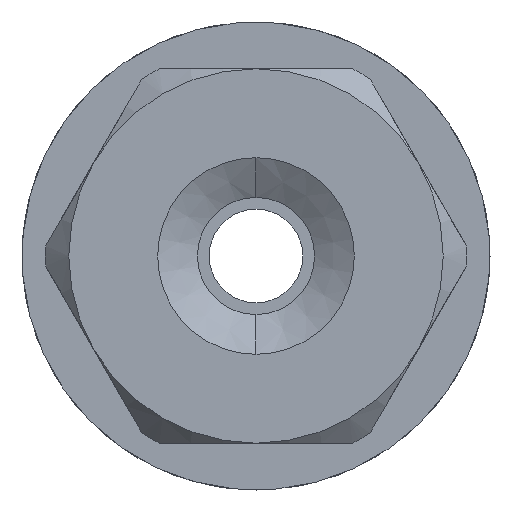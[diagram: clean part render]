
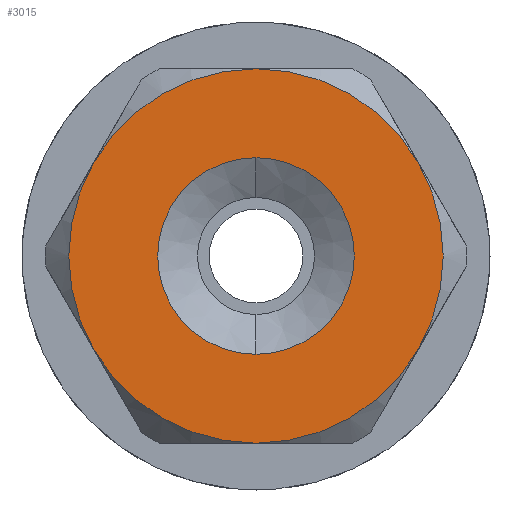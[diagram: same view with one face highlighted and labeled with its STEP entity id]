
A CAD part, front view. The second image highlights one B-rep face of the part: STEP entity #3015.
In plain terms, the highlighted planar face has unit normal (0, -1, 0).
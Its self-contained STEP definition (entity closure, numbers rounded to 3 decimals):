
#374 = AXIS2_PLACEMENT_3D ( 'NONE', #6774, #2064, #7576 ) ;
#587 = DIRECTION ( 'NONE',  ( 0., 0., -1. ) ) ;
#651 = EDGE_CURVE ( 'NONE', #9242, #3650, #4282, .T. ) ;
#748 = CIRCLE ( 'NONE', #4535, 4. ) ;
#839 = ORIENTED_EDGE ( 'NONE', *, *, #4997, .T. ) ;
#923 = CARTESIAN_POINT ( 'NONE',  ( 0.265, -12.63, 17. ) ) ;
#1161 = CARTESIAN_POINT ( 'NONE',  ( 0.265, -12.63, 17. ) ) ;
#1310 = AXIS2_PLACEMENT_3D ( 'NONE', #923, #6453, #1730 ) ;
#1554 = CARTESIAN_POINT ( 'NONE',  ( 0.265, -12.63, 17. ) ) ;
#1672 = FACE_OUTER_BOUND ( 'NONE', #5254, .T. ) ;
#1730 = DIRECTION ( 'NONE',  ( 0., 0., 1. ) ) ;
#1992 = DIRECTION ( 'NONE',  ( 0., 0., -1. ) ) ;
#2039 = AXIS2_PLACEMENT_3D ( 'NONE', #8215, #3457, #8990 ) ;
#2051 = CIRCLE ( 'NONE', #2039, 4. ) ;
#2064 = DIRECTION ( 'NONE',  ( 0., -1., 0. ) ) ;
#2164 = CARTESIAN_POINT ( 'NONE',  ( 0.265, -12.63, 19.1 ) ) ;
#2276 = ORIENTED_EDGE ( 'NONE', *, *, #6071, .T. ) ;
#2353 = DIRECTION ( 'NONE',  ( 0., 0., 1. ) ) ;
#2374 = EDGE_LOOP ( 'NONE', ( #3936, #8543 ) ) ;
#2707 = VERTEX_POINT ( 'NONE', #2164 ) ;
#2821 = CARTESIAN_POINT ( 'NONE',  ( 0.265, -12.63, 13. ) ) ;
#3015 = ADVANCED_FACE ( 'NONE', ( #9783, #1672 ), #9471, .F. ) ;
#3091 = AXIS2_PLACEMENT_3D ( 'NONE', #1161, #6694, #1992 ) ;
#3105 = VERTEX_POINT ( 'NONE', #5709 ) ;
#3221 = DIRECTION ( 'NONE',  ( 0., 1., 0. ) ) ;
#3339 = DIRECTION ( 'NONE',  ( 0., -1., 0. ) ) ;
#3457 = DIRECTION ( 'NONE',  ( 0., -1., 0. ) ) ;
#3479 = EDGE_CURVE ( 'NONE', #3944, #9534, #6997, .T. ) ;
#3640 = EDGE_CURVE ( 'NONE', #3650, #3105, #7876, .T. ) ;
#3650 = VERTEX_POINT ( 'NONE', #6312 ) ;
#3936 = ORIENTED_EDGE ( 'NONE', *, *, #10144, .F. ) ;
#3944 = VERTEX_POINT ( 'NONE', #2821 ) ;
#3949 = CARTESIAN_POINT ( 'NONE',  ( 3.729, -12.63, 15. ) ) ;
#4282 = CIRCLE ( 'NONE', #5982, 4. ) ;
#4535 = AXIS2_PLACEMENT_3D ( 'NONE', #8084, #3339, #8865 ) ;
#4607 = CARTESIAN_POINT ( 'NONE',  ( -3.199, -12.63, 15. ) ) ;
#4933 = CARTESIAN_POINT ( 'NONE',  ( 3.729, -12.63, 19. ) ) ;
#4997 = EDGE_CURVE ( 'NONE', #6666, #3944, #748, .T. ) ;
#5117 = AXIS2_PLACEMENT_3D ( 'NONE', #1554, #7072, #2353 ) ;
#5136 = DIRECTION ( 'NONE',  ( 0., 0., 1. ) ) ;
#5231 = ORIENTED_EDGE ( 'NONE', *, *, #651, .T. ) ;
#5254 = EDGE_LOOP ( 'NONE', ( #839, #6606, #9383, #5231, #9382, #2276 ) ) ;
#5291 = DIRECTION ( 'NONE',  ( 0., -1., 0. ) ) ;
#5709 = CARTESIAN_POINT ( 'NONE',  ( -3.199, -12.63, 19. ) ) ;
#5721 = CIRCLE ( 'NONE', #3091, 2.1 ) ;
#5976 = AXIS2_PLACEMENT_3D ( 'NONE', #10024, #5291, #587 ) ;
#5982 = AXIS2_PLACEMENT_3D ( 'NONE', #8449, #9846, #5136 ) ;
#6071 = EDGE_CURVE ( 'NONE', #3105, #6666, #8236, .T. ) ;
#6312 = CARTESIAN_POINT ( 'NONE',  ( 0.265, -12.63, 21. ) ) ;
#6453 = DIRECTION ( 'NONE',  ( 0., -1., 0. ) ) ;
#6606 = ORIENTED_EDGE ( 'NONE', *, *, #3479, .T. ) ;
#6666 = VERTEX_POINT ( 'NONE', #4607 ) ;
#6694 = DIRECTION ( 'NONE',  ( 0., -1., 0. ) ) ;
#6743 = CIRCLE ( 'NONE', #5976, 2.1 ) ;
#6774 = CARTESIAN_POINT ( 'NONE',  ( 0.265, -12.63, 17. ) ) ;
#6997 = CIRCLE ( 'NONE', #374, 4. ) ;
#7072 = DIRECTION ( 'NONE',  ( 0., -1., 0. ) ) ;
#7520 = EDGE_CURVE ( 'NONE', #9534, #9242, #2051, .T. ) ;
#7576 = DIRECTION ( 'NONE',  ( 0., 0., 1. ) ) ;
#7618 = EDGE_CURVE ( 'NONE', #2707, #8999, #5721, .T. ) ;
#7629 = AXIS2_PLACEMENT_3D ( 'NONE', #7959, #3221, #8743 ) ;
#7876 = CIRCLE ( 'NONE', #5117, 4. ) ;
#7959 = CARTESIAN_POINT ( 'NONE',  ( 0.265, -12.63, 17. ) ) ;
#8084 = CARTESIAN_POINT ( 'NONE',  ( 0.265, -12.63, 17. ) ) ;
#8215 = CARTESIAN_POINT ( 'NONE',  ( 0.265, -12.63, 17. ) ) ;
#8236 = CIRCLE ( 'NONE', #1310, 4. ) ;
#8449 = CARTESIAN_POINT ( 'NONE',  ( 0.265, -12.63, 17. ) ) ;
#8543 = ORIENTED_EDGE ( 'NONE', *, *, #7618, .F. ) ;
#8743 = DIRECTION ( 'NONE',  ( 0., 0., 1. ) ) ;
#8865 = DIRECTION ( 'NONE',  ( 0., 0., 1. ) ) ;
#8990 = DIRECTION ( 'NONE',  ( 0., 0., 1. ) ) ;
#8999 = VERTEX_POINT ( 'NONE', #9458 ) ;
#9242 = VERTEX_POINT ( 'NONE', #4933 ) ;
#9382 = ORIENTED_EDGE ( 'NONE', *, *, #3640, .T. ) ;
#9383 = ORIENTED_EDGE ( 'NONE', *, *, #7520, .T. ) ;
#9458 = CARTESIAN_POINT ( 'NONE',  ( 0.265, -12.63, 14.9 ) ) ;
#9471 = PLANE ( 'NONE',  #7629 ) ;
#9534 = VERTEX_POINT ( 'NONE', #3949 ) ;
#9783 = FACE_BOUND ( 'NONE', #2374, .T. ) ;
#9846 = DIRECTION ( 'NONE',  ( 0., -1., 0. ) ) ;
#10024 = CARTESIAN_POINT ( 'NONE',  ( 0.265, -12.63, 17. ) ) ;
#10144 = EDGE_CURVE ( 'NONE', #8999, #2707, #6743, .T. ) ;
